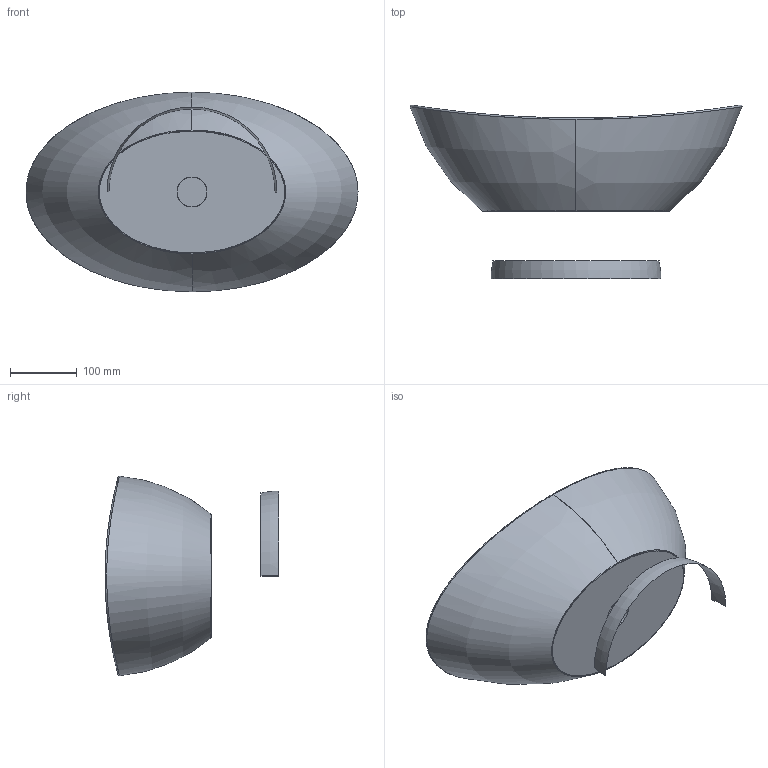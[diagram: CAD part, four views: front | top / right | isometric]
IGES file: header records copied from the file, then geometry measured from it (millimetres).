
Start section: SolidWorks IGES file using analytic representation for surfaces
Global section: file name: D:\Users\M.Szymanski\Desktop\Umywalki\seria Namur\03. do przegrania\Unb_NAMUR_50x30.IGS; native system: SolidWorks 2011; preprocessor: SolidWorks 2011; author: M.Szymanski; date: 180416.104752; units: millimetre
Bounding box: 498.42 x 261.07 x 299.62 mm (x, y, z)
Surface area: 430840.9 mm2 (no closed solid volume)
Topology: 0 solids, 0 shells, 30 faces, 757 edges, 756 vertices
Faces by surface type: bspline 21, revolution 9
